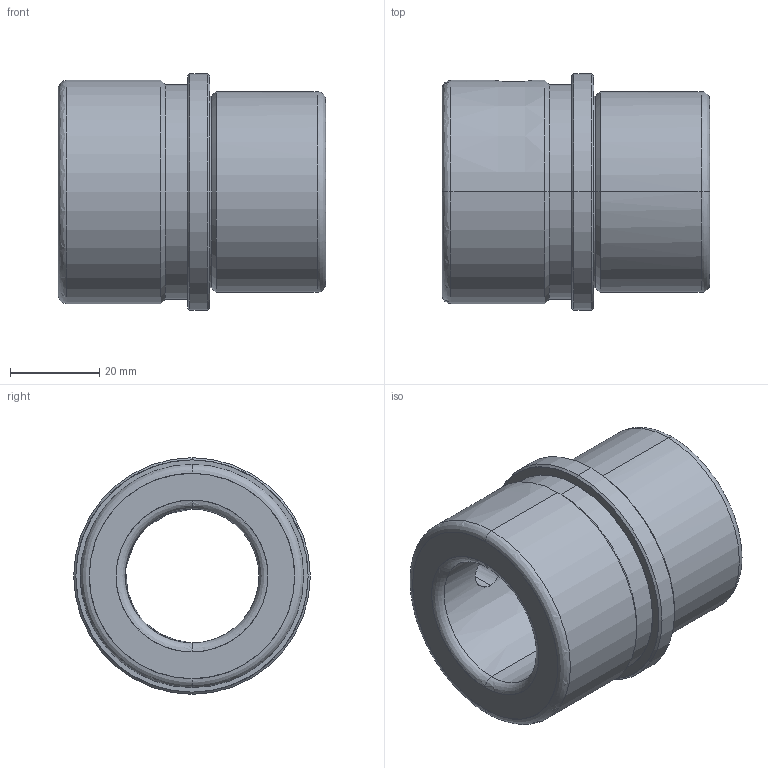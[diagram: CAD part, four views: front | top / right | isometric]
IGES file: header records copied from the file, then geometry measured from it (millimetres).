
Start section: START RECORD GO HERE.
Global section: file name: CF 641 30 x 60.igs; native system: DASSAULT SYSTEMES CATIA V5 R20 - www.3ds.com; preprocessor: CATIA Version 5 Release 20 ; author: Utente; organization: NB04-ASUS; date: 20201226.154616; units: millimetre
Bounding box: 60 x 53 x 53 mm (x, y, z)
Surface area: 17925.1 mm2 (no closed solid volume)
Topology: 0 solids, 0 shells, 37 faces, 252 edges, 252 vertices
Faces by surface type: revolution 32, plane 5
